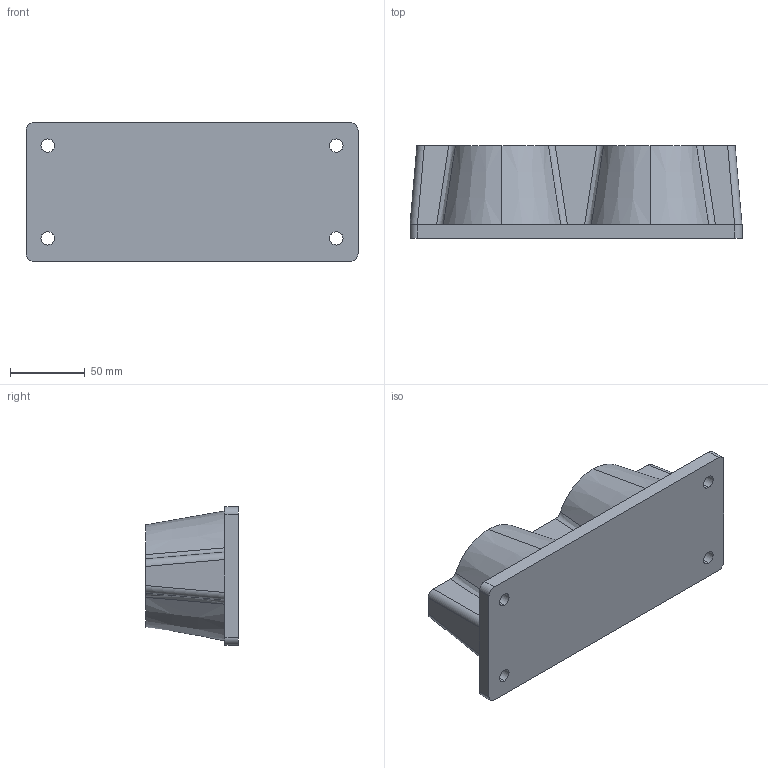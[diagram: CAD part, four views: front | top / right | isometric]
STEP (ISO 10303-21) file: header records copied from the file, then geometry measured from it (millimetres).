
FILE_DESCRIPTION (( 'STEP AP203' ), '1' );
FILE_NAME ('100074.STEP', '2016-02-15T08:33:50', ( '' ), ( '' ), 'SwSTEP 2.0', 'SolidWorks 2016', '' );
FILE_SCHEMA (( 'CONFIG_CONTROL_DESIGN' ));
Length unit declared in the file: millimetre
Products named in the file (1): 100074
Bounding box: 222 x 62 x 92.5 mm (x, y, z)
Volume: 780101.7 mm3; surface area: 72722.3 mm2
Topology: 1 solids, 1 shells, 46 faces, 128 edges, 84 vertices
Faces by surface type: cylinder 16, plane 16, bspline 8, cone 6
Entity records: 1833 total; most frequent: CARTESIAN_POINT 643, ORIENTED_EDGE 256, DIRECTION 202, EDGE_CURVE 128, VERTEX_POINT 84, AXIS2_PLACEMENT_3D 75, EDGE_LOOP 54, LINE 52
